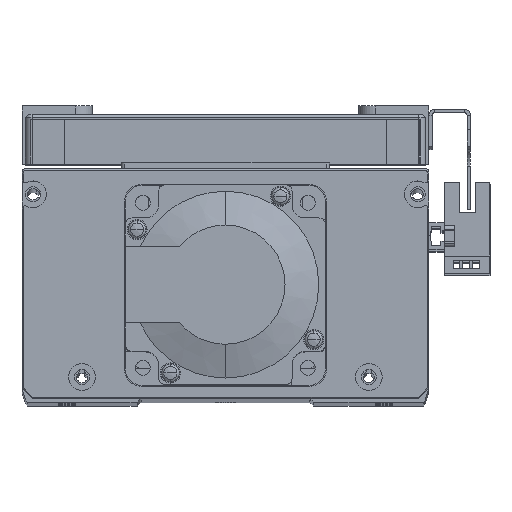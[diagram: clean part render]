
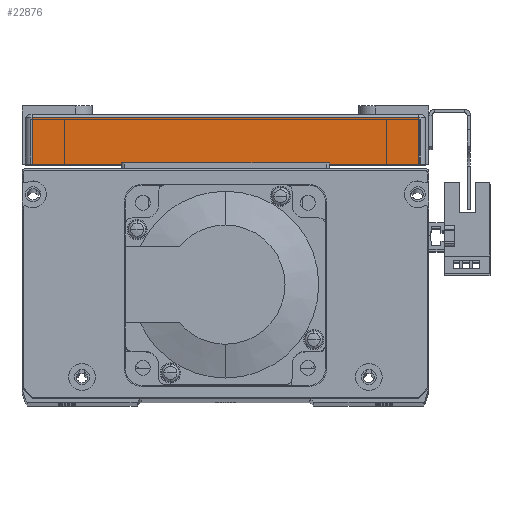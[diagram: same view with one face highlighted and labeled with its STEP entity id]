
A CAD part, top view. The second image highlights one B-rep face of the part: STEP entity #22876.
In plain terms, the highlighted planar face has unit normal (0, 0, 1) as drawn and (1, 0, 0) by its records, which use the part's own axes.
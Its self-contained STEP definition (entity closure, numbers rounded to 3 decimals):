
#4308 = CARTESIAN_POINT ( 'NONE',  ( 82.5, 15., -60. ) ) ;
#4328 = PLANE ( 'NONE',  #34997 ) ;
#4336 = DIRECTION ( 'NONE',  ( -1., 0., 0. ) ) ;
#4340 = DIRECTION ( 'NONE',  ( 0., 0., 1. ) ) ;
#11204 = LINE ( 'NONE', #12395, #11223 ) ;
#11219 = VECTOR ( 'NONE', #12418, 1000. ) ;
#11223 = VECTOR ( 'NONE', #12383, 1000. ) ;
#11257 = LINE ( 'NONE', #12394, #11219 ) ;
#11301 = LINE ( 'NONE', #12417, #11304 ) ;
#11304 = VECTOR ( 'NONE', #12420, 1000. ) ;
#11328 = LINE ( 'NONE', #12489, #11362 ) ;
#11362 = VECTOR ( 'NONE', #12491, 1000. ) ;
#12383 = DIRECTION ( 'NONE',  ( 0., 1., 0. ) ) ;
#12394 = CARTESIAN_POINT ( 'NONE',  ( 82.5, 15., 58. ) ) ;
#12395 = CARTESIAN_POINT ( 'NONE',  ( 82.5, 15., -58. ) ) ;
#12417 = CARTESIAN_POINT ( 'NONE',  ( 82.5, 0., -60. ) ) ;
#12418 = DIRECTION ( 'NONE',  ( 0., -1., 0. ) ) ;
#12420 = DIRECTION ( 'NONE',  ( 0., 0., -1. ) ) ;
#12489 = CARTESIAN_POINT ( 'NONE',  ( 82.5, 14., 58. ) ) ;
#12491 = DIRECTION ( 'NONE',  ( 0., 0., 1. ) ) ;
#19667 = CARTESIAN_POINT ( 'NONE',  ( 82.5, 0., -58. ) ) ;
#19727 = CARTESIAN_POINT ( 'NONE',  ( 82.5, 14., -58. ) ) ;
#19771 = CARTESIAN_POINT ( 'NONE',  ( 82.5, 14., 58. ) ) ;
#19780 = CARTESIAN_POINT ( 'NONE',  ( 82.5, 0., 58. ) ) ;
#22876 = ADVANCED_FACE ( 'NONE', ( #24692 ), #4328, .F. ) ;
#24692 = FACE_OUTER_BOUND ( 'NONE', #25094, .T. ) ;
#25094 = EDGE_LOOP ( 'NONE', ( #51906, #51889, #51887, #51931 ) ) ;
#32744 = EDGE_CURVE ( 'NONE', #43370, #43325, #11257, .T. ) ;
#32746 = EDGE_CURVE ( 'NONE', #43275, #43321, #11204, .T. ) ;
#32758 = EDGE_CURVE ( 'NONE', #43325, #43275, #11301, .T. ) ;
#32796 = EDGE_CURVE ( 'NONE', #43321, #43370, #11328, .T. ) ;
#34997 = AXIS2_PLACEMENT_3D ( 'NONE', #4308, #4336, #4340 ) ;
#43275 = VERTEX_POINT ( 'NONE', #19667 ) ;
#43321 = VERTEX_POINT ( 'NONE', #19727 ) ;
#43325 = VERTEX_POINT ( 'NONE', #19780 ) ;
#43370 = VERTEX_POINT ( 'NONE', #19771 ) ;
#51887 = ORIENTED_EDGE ( 'NONE', *, *, #32744, .T. ) ;
#51889 = ORIENTED_EDGE ( 'NONE', *, *, #32796, .T. ) ;
#51906 = ORIENTED_EDGE ( 'NONE', *, *, #32746, .T. ) ;
#51931 = ORIENTED_EDGE ( 'NONE', *, *, #32758, .T. ) ;
